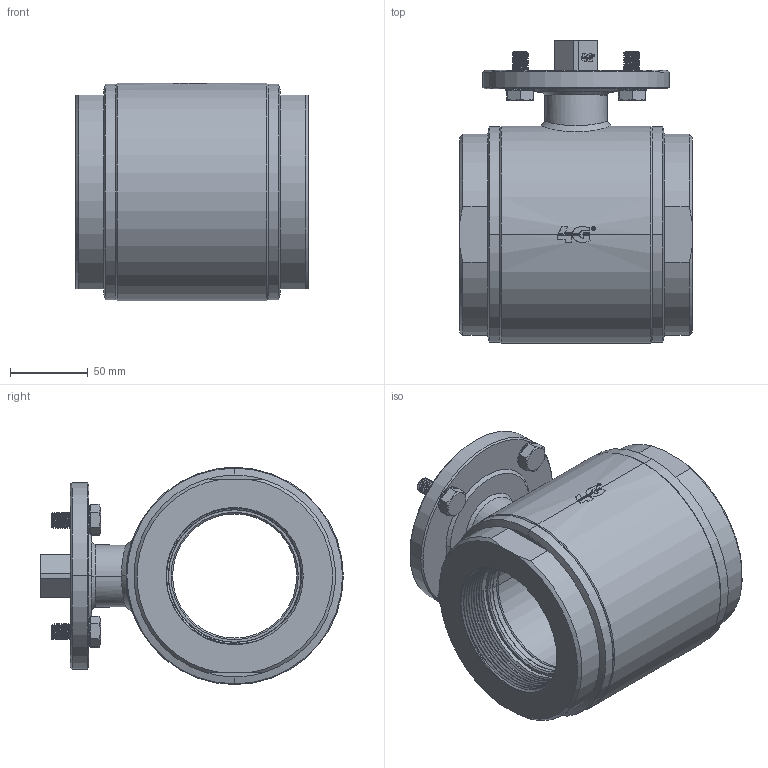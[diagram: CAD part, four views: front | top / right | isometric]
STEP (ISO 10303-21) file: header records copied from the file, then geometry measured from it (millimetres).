
FILE_DESCRIPTION((''),'2;1');
FILE_NAME('1330016481F_SW0001','2026-10-15T17:03:26',('tecnico2'),('CDM Tecnoconsulting'),'CREO PARAMETRIC BY PTC INC, 2024063','CREO PARAMETRIC BY PTC INC, 2024063','');
FILE_SCHEMA(('CONFIG_CONTROL_DESIGN','SHAPE_APPEARANCE_LAYERS_GROUPS'));
Products named in the file (1): 1330016481F_SW0001
Bounding box: 150 x 195 x 140 mm (x, y, z)
Volume: 1547673.1 mm3; surface area: 337237.7 mm2
Topology: 1 solids, 3 shells, 1589 faces, 4399 edges, 2853 vertices
Faces by surface type: plane 637, cylinder 476, cone 187, bspline 128, extrusion 111, torus 38, sphere 12
Entity records: 119416 total; most frequent: CARTESIAN_POINT 67510, ORIENTED_EDGE 8782, DIRECTION 6591, PRESENTATION_STYLE_ASSIGNMENT 4480, STYLED_ITEM 4392, CURVE_STYLE 4391, EDGE_CURVE 4391, VERTEX_POINT 2853
